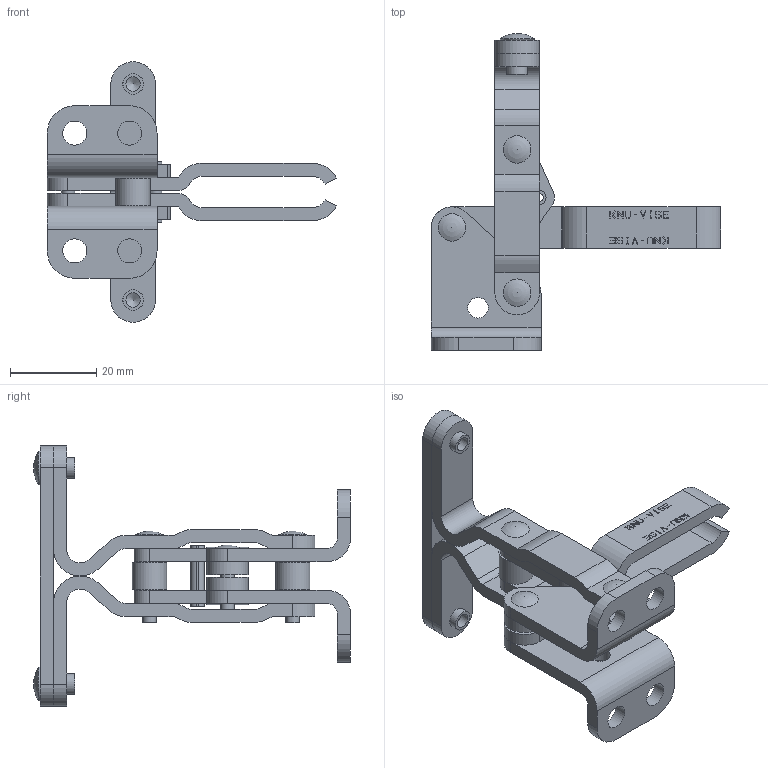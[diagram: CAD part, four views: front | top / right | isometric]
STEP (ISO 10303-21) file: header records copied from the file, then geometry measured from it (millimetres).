
FILE_DESCRIPTION(/* description */ (''),/* implementation_level */ '2;1');
FILE_NAME(/* name */ 'C:\Users\Nick\Desktop\t-220\3D\T-220.stp',/* time_stamp */ '2015-09-01T17:03:36-04:00',/* author */ ('Nick'),/* organization */ (''),/* preprocessor_version */ 'ST-DEVELOPER v16.1',/* originating_system */ 'AutoCAD Mechanical',/* authorisation */ '');
FILE_SCHEMA (('AUTOMOTIVE_DESIGN { 1 0 10303 214 3 1 1 }'));
Length unit declared in the file: inch
Products named in the file (1): Product
Bounding box: 66.95 x 73.3 x 60.3 mm (x, y, z)
Volume: 18683.8 mm3; surface area: 18372.4 mm2
Topology: 18 solids, 18 shells, 606 faces, 1610 edges, 1074 vertices
Faces by surface type: plane 488, cylinder 90, bspline 10, sphere 6, torus 6, cone 6
Full cylindrical faces by diameter (mm): 2.362 x4, 3.124 x4, 3.226 x18, 3.3 x2, 3.353 x2, 4.724 x2, 4.775 x6, 5.537 x4, 7.95 x2
Entity records: 18365 total; most frequent: CARTESIAN_POINT 3381, ORIENTED_EDGE 3056, DIRECTION 2894, EDGE_CURVE 1528, LINE 1316, VECTOR 1316, VERTEX_POINT 1052, AXIS2_PLACEMENT_3D 789
